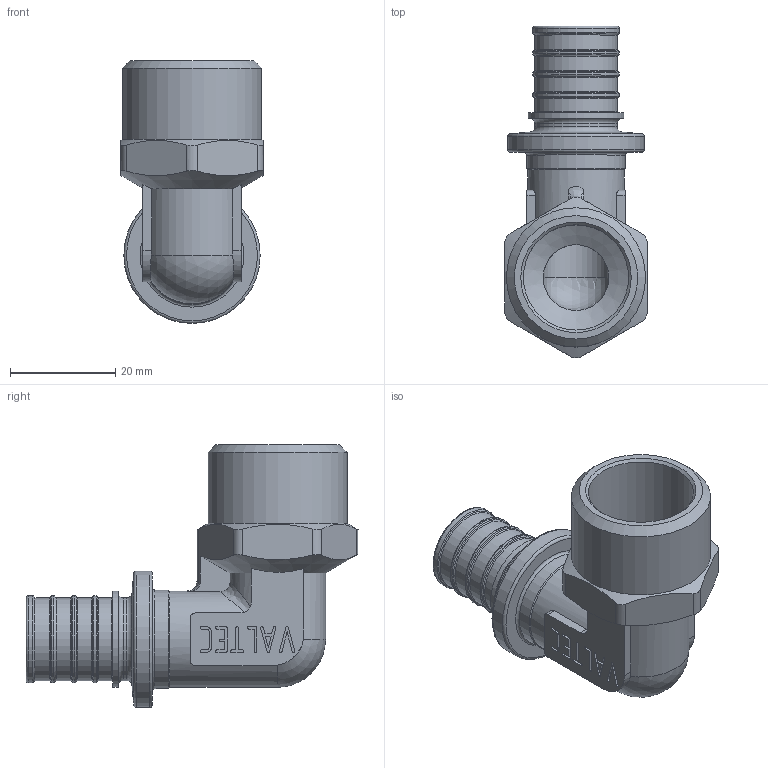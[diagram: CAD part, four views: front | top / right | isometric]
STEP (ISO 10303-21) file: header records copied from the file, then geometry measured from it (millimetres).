
FILE_DESCRIPTION(('STEP AP203'), '1');
FILE_NAME('ﾂﾐ.752212.007 - VTm.453.G.002005 ﾔ頸. 90 胙. 浯葢', '2024-01-24T06:32:13', ('IT'), ('VESTA'), 'C3D Converter', 'C3D Toolkit', '');
FILE_SCHEMA(('CONFIG_CONTROL_DESIGN'));
Length unit declared in the file: millimetre
Products named in the file (1): ВР.752212.007
Bounding box: 27 x 63.08 x 49.95 mm (x, y, z)
Volume: 14963.5 mm3; surface area: 10732.8 mm2
Topology: 1 solids, 1 shells, 331 faces, 898 edges, 584 vertices
Faces by surface type: extrusion 142, plane 119, cylinder 34, torus 21, cone 8, bspline 5, sphere 2
Full cylindrical faces by diameter (mm): 12.5 x2, 15.7 x5, 16.5 x4, 18.2 x1, 18.3 x1, 18.7 x1, 20 x1, 25.9 x1, 26.441 x1
Entity records: 12345 total; most frequent: CARTESIAN_POINT 4824, ORIENTED_EDGE 1702, DIRECTION 1080, EDGE_CURVE 851, VERTEX_POINT 584, VECTOR 576, B_SPLINE_CURVE_WITH_KNOTS 488, LINE 434
